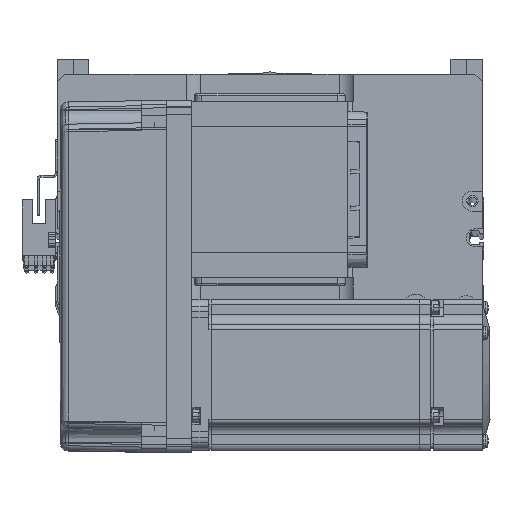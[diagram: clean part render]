
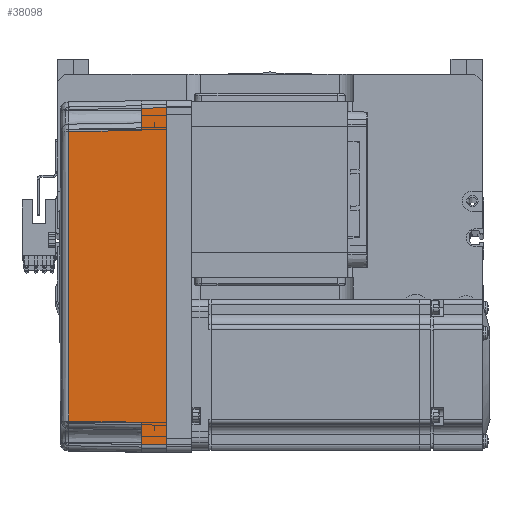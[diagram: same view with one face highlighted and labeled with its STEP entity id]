
A CAD part, top view. The second image highlights one B-rep face of the part: STEP entity #38098.
In plain terms, the highlighted planar face has unit normal (-0.018, 0, 1) as drawn and (0, -1, 0.017) by its records, which use the part's own axes.
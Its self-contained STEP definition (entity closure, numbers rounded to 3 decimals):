
#2423 = CARTESIAN_POINT ( 'NONE',  ( -66.826, -35.825, 10. ) ) ;
#2582 = ORIENTED_EDGE ( 'NONE', *, *, #14629, .T. ) ;
#4000 = DIRECTION ( 'NONE',  ( 0., -1., 0.017 ) ) ;
#6252 = CARTESIAN_POINT ( 'NONE',  ( -58., -35.825, 10. ) ) ;
#7907 = DIRECTION ( 'NONE',  ( -1., 0., 0. ) ) ;
#9095 = VERTEX_POINT ( 'NONE', #6252 ) ;
#11463 = DIRECTION ( 'NONE',  ( -0.017, 0.017, 1. ) ) ;
#12394 = B_SPLINE_CURVE_WITH_KNOTS ( 'NONE', 3,
 ( #13078, #37657, #52701, #22650 ),
 .UNSPECIFIED., .F., .F.,
 ( 4, 4 ),
 ( 0., 1. ),
 .UNSPECIFIED. ) ;
#13078 = CARTESIAN_POINT ( 'NONE',  ( 57.495, -35.32, 38.985 ) ) ;
#13279 = ORIENTED_EDGE ( 'NONE', *, *, #27804, .T. ) ;
#14629 = EDGE_CURVE ( 'NONE', #9095, #48246, #49317, .T. ) ;
#14930 = EDGE_CURVE ( 'NONE', #21957, #40206, #29757, .T. ) ;
#18922 = VECTOR ( 'NONE', #7907, 1000. ) ;
#21046 = VERTEX_POINT ( 'NONE', #64347 ) ;
#21957 = VERTEX_POINT ( 'NONE', #28402 ) ;
#22650 = CARTESIAN_POINT ( 'NONE',  ( -57.495, -35.32, 38.985 ) ) ;
#23244 = VECTOR ( 'NONE', #40449, 1000. ) ;
#26679 = CARTESIAN_POINT ( 'NONE',  ( 58., -35.825, 10. ) ) ;
#27199 = EDGE_CURVE ( 'NONE', #33845, #21046, #63684, .T. ) ;
#27466 = CARTESIAN_POINT ( 'NONE',  ( 67., -36., 0. ) ) ;
#27804 = EDGE_CURVE ( 'NONE', #40206, #35948, #12394, .T. ) ;
#28162 = ORIENTED_EDGE ( 'NONE', *, *, #27199, .T. ) ;
#28402 = CARTESIAN_POINT ( 'NONE',  ( 58., -35.825, 10. ) ) ;
#29547 = CARTESIAN_POINT ( 'NONE',  ( 0., -36., 0. ) ) ;
#29757 = LINE ( 'NONE', #26679, #54738 ) ;
#29783 = LINE ( 'NONE', #32853, #54007 ) ;
#31003 = LINE ( 'NONE', #29547, #23244 ) ;
#32853 = CARTESIAN_POINT ( 'NONE',  ( 70., -35.825, 10. ) ) ;
#32952 = CARTESIAN_POINT ( 'NONE',  ( -67., -36., 0. ) ) ;
#33594 = PLANE ( 'NONE',  #42928 ) ;
#33845 = VERTEX_POINT ( 'NONE', #27466 ) ;
#35948 = VERTEX_POINT ( 'NONE', #36391 ) ;
#36391 = CARTESIAN_POINT ( 'NONE',  ( -57.495, -35.32, 38.985 ) ) ;
#37657 = CARTESIAN_POINT ( 'NONE',  ( 19.165, -35.316, 39.181 ) ) ;
#37744 = ORIENTED_EDGE ( 'NONE', *, *, #62153, .T. ) ;
#38098 = ADVANCED_FACE ( 'NONE', ( #56449 ), #33594, .T. ) ;
#38630 = CARTESIAN_POINT ( 'NONE',  ( 70., -36., 0. ) ) ;
#40206 = VERTEX_POINT ( 'NONE', #43395 ) ;
#40449 = DIRECTION ( 'NONE',  ( -1., 0., 0. ) ) ;
#40482 = DIRECTION ( 'NONE',  ( -0.017, -0.017, -1. ) ) ;
#40593 = ORIENTED_EDGE ( 'NONE', *, *, #44788, .F. ) ;
#41012 = VECTOR ( 'NONE', #59626, 1000. ) ;
#41101 = VERTEX_POINT ( 'NONE', #32952 ) ;
#41792 = EDGE_LOOP ( 'NONE', ( #28162, #37744, #48672, #13279, #50406, #2582, #47150, #40593 ) ) ;
#42928 = AXIS2_PLACEMENT_3D ( 'NONE', #38630, #4000, #47791 ) ;
#43021 = CARTESIAN_POINT ( 'NONE',  ( 70., -35.825, 10. ) ) ;
#43395 = CARTESIAN_POINT ( 'NONE',  ( 57.495, -35.32, 38.985 ) ) ;
#43826 = LINE ( 'NONE', #59255, #56318 ) ;
#44788 = EDGE_CURVE ( 'NONE', #33845, #41101, #31003, .T. ) ;
#44799 = CARTESIAN_POINT ( 'NONE',  ( -66.959, -35.958, 2.39 ) ) ;
#47150 = ORIENTED_EDGE ( 'NONE', *, *, #61320, .F. ) ;
#47791 = DIRECTION ( 'NONE',  ( 0., -0.017, -1. ) ) ;
#48246 = VERTEX_POINT ( 'NONE', #2423 ) ;
#48609 = EDGE_CURVE ( 'NONE', #35948, #9095, #43826, .T. ) ;
#48672 = ORIENTED_EDGE ( 'NONE', *, *, #14930, .T. ) ;
#48948 = LINE ( 'NONE', #44799, #41012 ) ;
#49317 = LINE ( 'NONE', #43021, #18922 ) ;
#50406 = ORIENTED_EDGE ( 'NONE', *, *, #48609, .T. ) ;
#52701 = CARTESIAN_POINT ( 'NONE',  ( -19.165, -35.316, 39.181 ) ) ;
#54007 = VECTOR ( 'NONE', #58407, 1000. ) ;
#54312 = VECTOR ( 'NONE', #60285, 1000. ) ;
#54738 = VECTOR ( 'NONE', #11463, 1000. ) ;
#56318 = VECTOR ( 'NONE', #40482, 1000. ) ;
#56449 = FACE_OUTER_BOUND ( 'NONE', #41792, .T. ) ;
#58407 = DIRECTION ( 'NONE',  ( -1., 0., 0. ) ) ;
#58438 = CARTESIAN_POINT ( 'NONE',  ( 67., -36., 0. ) ) ;
#59255 = CARTESIAN_POINT ( 'NONE',  ( -57.495, -35.32, 38.985 ) ) ;
#59626 = DIRECTION ( 'NONE',  ( 0.017, 0.017, 1. ) ) ;
#60285 = DIRECTION ( 'NONE',  ( -0.017, 0.017, 1. ) ) ;
#61320 = EDGE_CURVE ( 'NONE', #41101, #48246, #48948, .T. ) ;
#62153 = EDGE_CURVE ( 'NONE', #21046, #21957, #29783, .T. ) ;
#63684 = LINE ( 'NONE', #58438, #54312 ) ;
#64347 = CARTESIAN_POINT ( 'NONE',  ( 66.826, -35.825, 10. ) ) ;
